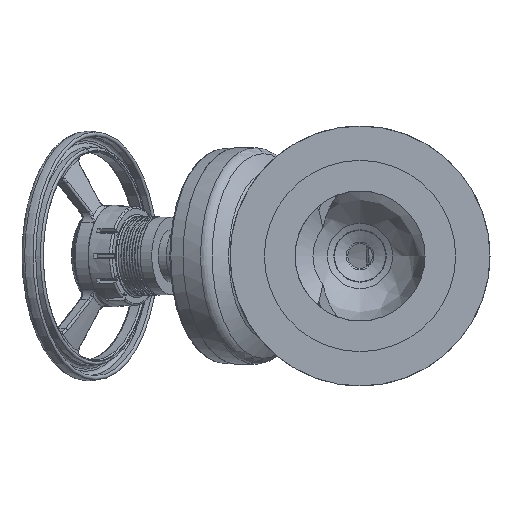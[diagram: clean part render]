
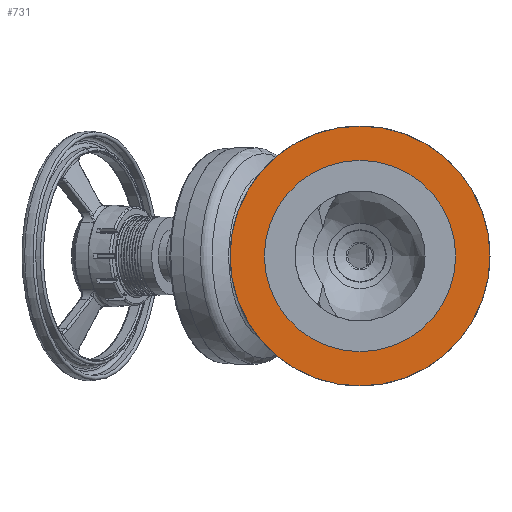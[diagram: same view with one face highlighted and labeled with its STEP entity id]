
A CAD part, left-side view. The second image highlights one B-rep face of the part: STEP entity #731.
In plain terms, the highlighted planar face has unit normal (-1, 0, 0).
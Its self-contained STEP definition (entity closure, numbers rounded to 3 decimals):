
#700=CARTESIAN_POINT('',(-397.,-92.,0.0));
#701=VERTEX_POINT('',#700);
#702=CARTESIAN_POINT('',(-397.,0.,0.0));
#703=DIRECTION('',(-1.0,0.0,0.0));
#704=DIRECTION('',(0.0,-1.0,0.0));
#705=AXIS2_PLACEMENT_3D('',#702,#703,#704);
#706=CIRCLE('',#705,92.);
#707=EDGE_CURVE('',#701,#701,#706,.T.);
#712=CARTESIAN_POINT('',(-397.,-108.5,0.0));
#713=DIRECTION('',(-1.0,0.0,0.0));
#714=DIRECTION('',(0.0,0.0,1.0));
#715=AXIS2_PLACEMENT_3D('',#712,#713,#714);
#716=PLANE('',#715);
#717=CARTESIAN_POINT('',(-397.,-125.,0.0));
#718=VERTEX_POINT('',#717);
#719=CARTESIAN_POINT('',(-397.,0.,0.0));
#720=DIRECTION('',(-1.0,0.0,0.0));
#721=DIRECTION('',(0.0,-1.0,0.0));
#722=AXIS2_PLACEMENT_3D('',#719,#720,#721);
#723=CIRCLE('',#722,125.);
#724=EDGE_CURVE('',#718,#718,#723,.T.);
#725=ORIENTED_EDGE('',*,*,#724,.T.);
#726=EDGE_LOOP('',(#725));
#727=FACE_OUTER_BOUND('',#726,.T.);
#728=ORIENTED_EDGE('',*,*,#707,.F.);
#729=EDGE_LOOP('',(#728));
#730=FACE_BOUND('',#729,.T.);
#731=ADVANCED_FACE('',(#727,#730),#716,.T.);
